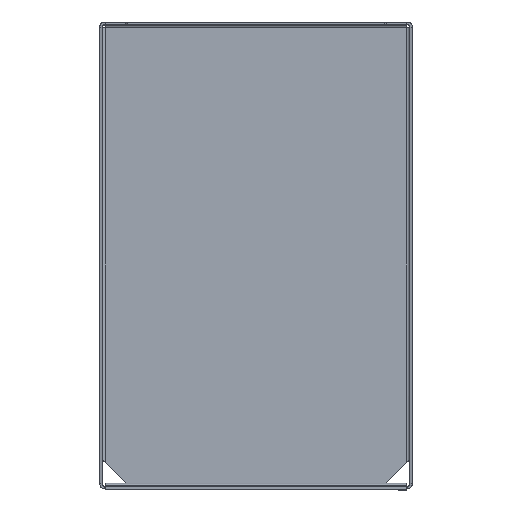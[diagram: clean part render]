
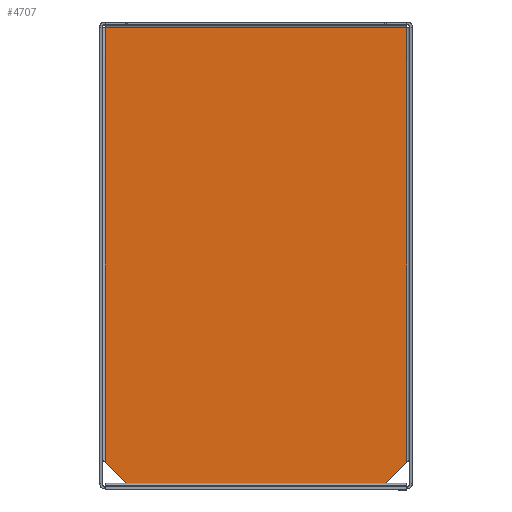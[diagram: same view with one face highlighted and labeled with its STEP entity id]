
A CAD part, top view. The second image highlights one B-rep face of the part: STEP entity #4707.
In plain terms, the highlighted planar face has unit normal (0, 0, 1).
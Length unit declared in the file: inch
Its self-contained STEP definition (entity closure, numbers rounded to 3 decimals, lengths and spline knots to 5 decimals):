
#1379 = DIRECTION ( 'NONE',  ( 1., 0., 0. ) ) ;
#1380 = CARTESIAN_POINT ( 'NONE',  ( -5.823, 17.792, 0.095 ) ) ;
#1381 = DIRECTION ( 'NONE',  ( -0.707, 0.707, 0. ) ) ;
#1383 = DIRECTION ( 'NONE',  ( -1., 0., 0. ) ) ;
#1384 = CARTESIAN_POINT ( 'NONE',  ( -5.9365, 1.152, 0.095 ) ) ;
#1385 = DIRECTION ( 'NONE',  ( 0., -1., 0. ) ) ;
#1386 = CARTESIAN_POINT ( 'NONE',  ( 5.823, 18., 0.095 ) ) ;
#1387 = DIRECTION ( 'NONE',  ( -0.707, -0.707, 0. ) ) ;
#1388 = CARTESIAN_POINT ( 'NONE',  ( 5.823, 0.208, 0.095 ) ) ;
#1389 = DIRECTION ( 'NONE',  ( 0., -1., 0. ) ) ;
#1390 = CARTESIAN_POINT ( 'NONE',  ( -5.823, 18., 0.095 ) ) ;
#1396 = CARTESIAN_POINT ( 'NONE',  ( 5.9365, 1.152, 0.095 ) ) ;
#1755 = EDGE_CURVE ( 'NONE', #3092, #3121, #4188, .T. ) ;
#1756 = EDGE_CURVE ( 'NONE', #3089, #3115, #4184, .T. ) ;
#1757 = EDGE_CURVE ( 'NONE', #3063, #3089, #4192, .T. ) ;
#1758 = EDGE_CURVE ( 'NONE', #3115, #3144, #4168, .T. ) ;
#1759 = EDGE_CURVE ( 'NONE', #3144, #3121, #4186, .T. ) ;
#1760 = EDGE_CURVE ( 'NONE', #3092, #3063, #4198, .T. ) ;
#1994 = AXIS2_PLACEMENT_3D ( 'NONE', #6103, #6097, #6096 ) ;
#3063 = VERTEX_POINT ( 'NONE', #7110 ) ;
#3089 = VERTEX_POINT ( 'NONE', #7041 ) ;
#3092 = VERTEX_POINT ( 'NONE', #7038 ) ;
#3115 = VERTEX_POINT ( 'NONE', #7066 ) ;
#3121 = VERTEX_POINT ( 'NONE', #7072 ) ;
#3144 = VERTEX_POINT ( 'NONE', #7096 ) ;
#4168 = LINE ( 'NONE', #1388, #4194 ) ;
#4184 = LINE ( 'NONE', #1396, #4190 ) ;
#4186 = LINE ( 'NONE', #1384, #4196 ) ;
#4188 = LINE ( 'NONE', #1390, #4189 ) ;
#4189 = VECTOR ( 'NONE', #1389, 39.37008 ) ;
#4190 = VECTOR ( 'NONE', #1387, 39.37008 ) ;
#4192 = LINE ( 'NONE', #1386, #4193 ) ;
#4193 = VECTOR ( 'NONE', #1385, 39.37008 ) ;
#4194 = VECTOR ( 'NONE', #1383, 39.37008 ) ;
#4196 = VECTOR ( 'NONE', #1381, 39.37008 ) ;
#4198 = LINE ( 'NONE', #1380, #4199 ) ;
#4199 = VECTOR ( 'NONE', #1379, 39.37008 ) ;
#4707 = ADVANCED_FACE ( 'NONE', ( #4940 ), #6102, .F. ) ;
#4940 = FACE_OUTER_BOUND ( 'NONE', #5596, .T. ) ;
#5596 = EDGE_LOOP ( 'NONE', ( #5797, #5813, #5802, #5801, #5800, #5817 ) ) ;
#5797 = ORIENTED_EDGE ( 'NONE', *, *, #1756, .F. ) ;
#5800 = ORIENTED_EDGE ( 'NONE', *, *, #1759, .F. ) ;
#5801 = ORIENTED_EDGE ( 'NONE', *, *, #1755, .T. ) ;
#5802 = ORIENTED_EDGE ( 'NONE', *, *, #1760, .F. ) ;
#5813 = ORIENTED_EDGE ( 'NONE', *, *, #1757, .F. ) ;
#5817 = ORIENTED_EDGE ( 'NONE', *, *, #1758, .F. ) ;
#6096 = DIRECTION ( 'NONE',  ( -1., 0., 0. ) ) ;
#6097 = DIRECTION ( 'NONE',  ( 0., 0., -1. ) ) ;
#6102 = PLANE ( 'NONE',  #1994 ) ;
#6103 = CARTESIAN_POINT ( 'NONE',  ( -6.031, 18., 0.095 ) ) ;
#7038 = CARTESIAN_POINT ( 'NONE',  ( -5.823, 17.792, 0.095 ) ) ;
#7041 = CARTESIAN_POINT ( 'NONE',  ( 5.823, 1.0385, 0.095 ) ) ;
#7066 = CARTESIAN_POINT ( 'NONE',  ( 4.9925, 0.208, 0.095 ) ) ;
#7072 = CARTESIAN_POINT ( 'NONE',  ( -5.823, 1.0385, 0.095 ) ) ;
#7096 = CARTESIAN_POINT ( 'NONE',  ( -4.9925, 0.208, 0.095 ) ) ;
#7110 = CARTESIAN_POINT ( 'NONE',  ( 5.823, 17.792, 0.095 ) ) ;
